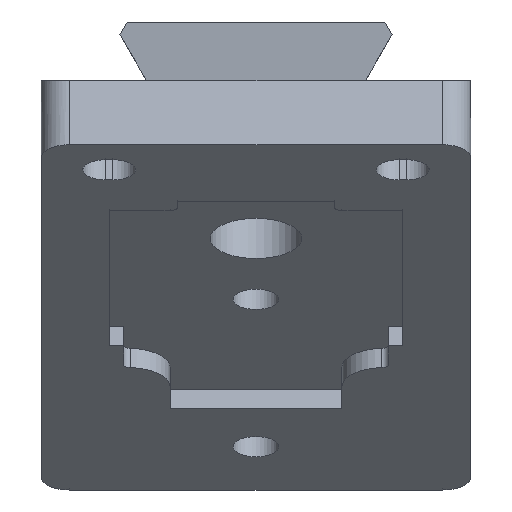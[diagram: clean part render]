
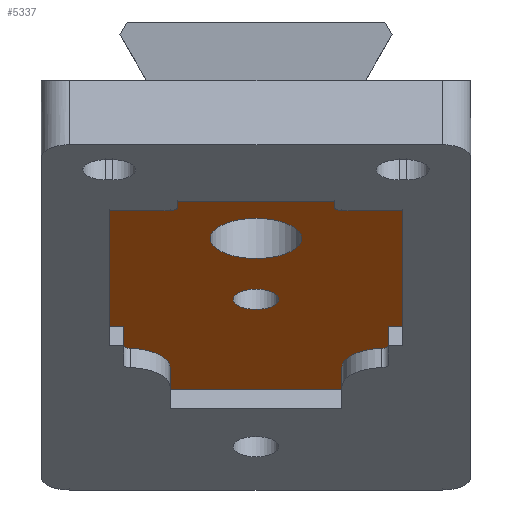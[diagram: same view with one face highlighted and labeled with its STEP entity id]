
A CAD part, left-side view. The second image highlights one B-rep face of the part: STEP entity #5337.
In plain terms, the highlighted planar face has unit normal (-0.438, 0, -0.899).
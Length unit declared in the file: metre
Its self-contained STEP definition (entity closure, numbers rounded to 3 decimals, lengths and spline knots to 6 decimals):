
#364=CIRCLE('',#5379,0.0016);
#366=CIRCLE('',#5382,0.0032);
#447=CIRCLE('',#5678,0.0005);
#448=CIRCLE('',#5679,0.003);
#449=CIRCLE('',#5680,0.003);
#450=CIRCLE('',#5681,0.0005);
#451=CIRCLE('',#5682,0.0005);
#452=CIRCLE('',#5683,0.0005);
#1947=ORIENTED_EDGE('',*,*,#2765,.T.);
#1948=ORIENTED_EDGE('',*,*,#2779,.T.);
#1949=ORIENTED_EDGE('',*,*,#2780,.T.);
#1950=ORIENTED_EDGE('',*,*,#2766,.T.);
#1951=ORIENTED_EDGE('',*,*,#2770,.T.);
#1952=ORIENTED_EDGE('',*,*,#2772,.F.);
#1953=ORIENTED_EDGE('',*,*,#2781,.T.);
#1954=ORIENTED_EDGE('',*,*,#2782,.T.);
#1955=ORIENTED_EDGE('',*,*,#2773,.F.);
#1956=ORIENTED_EDGE('',*,*,#2777,.F.);
#1957=ORIENTED_EDGE('',*,*,#2778,.T.);
#1958=ORIENTED_EDGE('',*,*,#2748,.F.);
#1959=ORIENTED_EDGE('',*,*,#2783,.T.);
#1960=ORIENTED_EDGE('',*,*,#2750,.T.);
#1961=ORIENTED_EDGE('',*,*,#2754,.T.);
#1962=ORIENTED_EDGE('',*,*,#2756,.F.);
#1963=ORIENTED_EDGE('',*,*,#2784,.T.);
#1964=ORIENTED_EDGE('',*,*,#2757,.F.);
#1965=ORIENTED_EDGE('',*,*,#2761,.F.);
#1966=ORIENTED_EDGE('',*,*,#2763,.F.);
#1967=ORIENTED_EDGE('',*,*,#2047,.F.);
#1968=ORIENTED_EDGE('',*,*,#2049,.F.);
#2047=EDGE_CURVE('',#2825,#2825,#364,.T.);
#2049=EDGE_CURVE('',#2827,#2827,#366,.T.);
#2748=EDGE_CURVE('',#3290,#3291,#3756,.T.);
#2750=EDGE_CURVE('',#3292,#3293,#3758,.T.);
#2754=EDGE_CURVE('',#3293,#3294,#3762,.T.);
#2756=EDGE_CURVE('',#3295,#3294,#3764,.T.);
#2757=EDGE_CURVE('',#3296,#3297,#3765,.T.);
#2761=EDGE_CURVE('',#3298,#3296,#3769,.T.);
#2763=EDGE_CURVE('',#3299,#3298,#3771,.T.);
#2765=EDGE_CURVE('',#3299,#3300,#3773,.T.);
#2766=EDGE_CURVE('',#3301,#3302,#3774,.T.);
#2770=EDGE_CURVE('',#3302,#3303,#3778,.T.);
#2772=EDGE_CURVE('',#3304,#3303,#3780,.T.);
#2773=EDGE_CURVE('',#3305,#3306,#3781,.T.);
#2777=EDGE_CURVE('',#3307,#3305,#3785,.T.);
#2778=EDGE_CURVE('',#3307,#3291,#3786,.T.);
#2779=EDGE_CURVE('',#3300,#3308,#447,.T.);
#2780=EDGE_CURVE('',#3308,#3301,#448,.F.);
#2781=EDGE_CURVE('',#3304,#3309,#449,.F.);
#2782=EDGE_CURVE('',#3309,#3306,#450,.T.);
#2783=EDGE_CURVE('',#3290,#3292,#451,.F.);
#2784=EDGE_CURVE('',#3295,#3297,#452,.F.);
#2825=VERTEX_POINT('',#6921);
#2827=VERTEX_POINT('',#6926);
#3290=VERTEX_POINT('',#9270);
#3291=VERTEX_POINT('',#9272);
#3292=VERTEX_POINT('',#9276);
#3293=VERTEX_POINT('',#9277);
#3294=VERTEX_POINT('',#9282);
#3295=VERTEX_POINT('',#9286);
#3296=VERTEX_POINT('',#9290);
#3297=VERTEX_POINT('',#9291);
#3298=VERTEX_POINT('',#9296);
#3299=VERTEX_POINT('',#9300);
#3300=VERTEX_POINT('',#9304);
#3301=VERTEX_POINT('',#9308);
#3302=VERTEX_POINT('',#9309);
#3303=VERTEX_POINT('',#9314);
#3304=VERTEX_POINT('',#9318);
#3305=VERTEX_POINT('',#9322);
#3306=VERTEX_POINT('',#9323);
#3307=VERTEX_POINT('',#9328);
#3308=VERTEX_POINT('',#9334);
#3309=VERTEX_POINT('',#9337);
#3756=LINE('',#9271,#4235);
#3758=LINE('',#9275,#4237);
#3762=LINE('',#9283,#4241);
#3764=LINE('',#9287,#4243);
#3765=LINE('',#9289,#4244);
#3769=LINE('',#9297,#4248);
#3771=LINE('',#9301,#4250);
#3773=LINE('',#9305,#4252);
#3774=LINE('',#9307,#4253);
#3778=LINE('',#9315,#4257);
#3780=LINE('',#9319,#4259);
#3781=LINE('',#9321,#4260);
#3785=LINE('',#9329,#4264);
#3786=LINE('',#9331,#4265);
#4235=VECTOR('',#6748,1.);
#4237=VECTOR('',#6752,1.);
#4241=VECTOR('',#6758,1.);
#4243=VECTOR('',#6762,1.);
#4244=VECTOR('',#6765,1.);
#4248=VECTOR('',#6771,1.);
#4250=VECTOR('',#6775,1.);
#4252=VECTOR('',#6779,1.);
#4253=VECTOR('',#6782,1.);
#4257=VECTOR('',#6788,1.);
#4259=VECTOR('',#6792,1.);
#4260=VECTOR('',#6795,1.);
#4264=VECTOR('',#6801,1.);
#4265=VECTOR('',#6804,1.);
#4580=EDGE_LOOP('',(#1947,#1948,#1949,#1950,#1951,#1952,#1953,#1954,#1955,
#1956,#1957,#1958,#1959,#1960,#1961,#1962,#1963,#1964,#1965,#1966));
#4581=EDGE_LOOP('',(#1967));
#4582=EDGE_LOOP('',(#1968));
#4905=FACE_BOUND('',#4580,.T.);
#4906=FACE_BOUND('',#4581,.T.);
#4907=FACE_BOUND('',#4582,.T.);
#5061=PLANE('',#5677);
#5337=ADVANCED_FACE('',(#4905,#4906,#4907),#5061,.T.);
#5379=AXIS2_PLACEMENT_3D('',#6920,#5754,#5755);
#5382=AXIS2_PLACEMENT_3D('',#6925,#5760,#5761);
#5677=AXIS2_PLACEMENT_3D('',#9332,#6805,#6806);
#5678=AXIS2_PLACEMENT_3D('',#9333,#6807,#6808);
#5679=AXIS2_PLACEMENT_3D('',#9335,#6809,#6810);
#5680=AXIS2_PLACEMENT_3D('',#9336,#6811,#6812);
#5681=AXIS2_PLACEMENT_3D('',#9338,#6813,#6814);
#5682=AXIS2_PLACEMENT_3D('',#9339,#6815,#6816);
#5683=AXIS2_PLACEMENT_3D('',#9340,#6817,#6818);
#5754=DIRECTION('',(-0.438,0.,-0.899));
#5755=DIRECTION('',(-0.899,0.,0.438));
#5760=DIRECTION('',(-0.438,0.,-0.899));
#5761=DIRECTION('',(-0.899,0.,0.438));
#6748=DIRECTION('',(0.,-1.,0.));
#6752=DIRECTION('',(-0.899,0.,0.438));
#6758=DIRECTION('',(0.,1.,0.));
#6762=DIRECTION('',(-0.899,0.,0.438));
#6765=DIRECTION('',(0.,-1.,0.));
#6771=DIRECTION('',(-0.899,0.,0.438));
#6775=DIRECTION('',(0.,1.,0.));
#6779=DIRECTION('',(0.899,0.,-0.438));
#6782=DIRECTION('',(0.899,0.,-0.438));
#6788=DIRECTION('',(0.,-1.,0.));
#6792=DIRECTION('',(0.899,0.,-0.438));
#6795=DIRECTION('',(0.899,0.,-0.438));
#6801=DIRECTION('',(0.,1.,0.));
#6804=DIRECTION('',(-0.899,0.,0.438));
#6805=DIRECTION('',(-0.438,0.,-0.899));
#6806=DIRECTION('',(0.899,0.,-0.438));
#6807=DIRECTION('',(-0.438,0.,-0.899));
#6808=DIRECTION('',(-0.899,0.,0.438));
#6809=DIRECTION('',(-0.438,0.,-0.899));
#6810=DIRECTION('',(-0.899,0.,0.438));
#6811=DIRECTION('',(-0.438,0.,-0.899));
#6812=DIRECTION('',(-0.899,0.,0.438));
#6813=DIRECTION('',(-0.438,0.,-0.899));
#6814=DIRECTION('',(-0.899,0.,0.438));
#6815=DIRECTION('',(-0.438,0.,-0.899));
#6816=DIRECTION('',(-0.899,0.,0.438));
#6817=DIRECTION('',(-0.438,0.,-0.899));
#6818=DIRECTION('',(-0.899,0.,0.438));
#6920=CARTESIAN_POINT('',(0.023373,0.,-0.015266));
#6921=CARTESIAN_POINT('',(0.021935,0.,-0.014565));
#6925=CARTESIAN_POINT('',(0.014655,0.,-0.011014));
#6926=CARTESIAN_POINT('',(0.011779,0.,-0.009611));
#9270=CARTESIAN_POINT('',(0.007914,-0.006,-0.007726));
#9271=CARTESIAN_POINT('',(0.007914,-0.007875,-0.007726));
#9272=CARTESIAN_POINT('',(0.007914,-0.01025,-0.007726));
#9275=CARTESIAN_POINT('',(0.007285,-0.0055,-0.007419));
#9276=CARTESIAN_POINT('',(0.007465,-0.0055,-0.007507));
#9277=CARTESIAN_POINT('',(0.006656,-0.0055,-0.007112));
#9282=CARTESIAN_POINT('',(0.006656,0.0055,-0.007112));
#9283=CARTESIAN_POINT('',(0.006656,0.,-0.007112));
#9286=CARTESIAN_POINT('',(0.007465,0.0055,-0.007507));
#9287=CARTESIAN_POINT('',(0.007285,0.0055,-0.007419));
#9289=CARTESIAN_POINT('',(0.007914,0.007875,-0.007726));
#9290=CARTESIAN_POINT('',(0.007914,0.01025,-0.007726));
#9291=CARTESIAN_POINT('',(0.007914,0.006,-0.007726));
#9296=CARTESIAN_POINT('',(0.027238,0.01025,-0.017151));
#9297=CARTESIAN_POINT('',(0.017576,0.01025,-0.012438));
#9300=CARTESIAN_POINT('',(0.027238,0.00925,-0.017151));
#9301=CARTESIAN_POINT('',(0.027238,0.00975,-0.017151));
#9304=CARTESIAN_POINT('',(0.029943,0.00925,-0.01847));
#9305=CARTESIAN_POINT('',(0.028811,0.00925,-0.017918));
#9307=CARTESIAN_POINT('',(0.033305,0.006,-0.02011));
#9308=CARTESIAN_POINT('',(0.03308,0.006,-0.02));
#9309=CARTESIAN_POINT('',(0.036226,0.006,-0.021535));
#9314=CARTESIAN_POINT('',(0.036226,-0.006,-0.021535));
#9315=CARTESIAN_POINT('',(0.036226,0.,-0.021535));
#9318=CARTESIAN_POINT('',(0.03308,-0.006,-0.02));
#9319=CARTESIAN_POINT('',(0.033305,-0.006,-0.02011));
#9321=CARTESIAN_POINT('',(0.028811,-0.00925,-0.017918));
#9322=CARTESIAN_POINT('',(0.027238,-0.00925,-0.017151));
#9323=CARTESIAN_POINT('',(0.029943,-0.00925,-0.01847));
#9328=CARTESIAN_POINT('',(0.027238,-0.01025,-0.017151));
#9329=CARTESIAN_POINT('',(0.027238,-0.00975,-0.017151));
#9331=CARTESIAN_POINT('',(0.020947,-0.01025,-0.014082));
#9332=CARTESIAN_POINT('',(0.023194,0.,-0.015178));
#9333=CARTESIAN_POINT('',(0.029943,0.00875,-0.01847));
#9334=CARTESIAN_POINT('',(0.030391,0.008786,-0.018689));
#9335=CARTESIAN_POINT('',(0.03308,0.009,-0.02));
#9336=CARTESIAN_POINT('',(0.03308,-0.009,-0.02));
#9337=CARTESIAN_POINT('',(0.030391,-0.008786,-0.018689));
#9338=CARTESIAN_POINT('',(0.029943,-0.00875,-0.01847));
#9339=CARTESIAN_POINT('',(0.007465,-0.006,-0.007507));
#9340=CARTESIAN_POINT('',(0.007465,0.006,-0.007507));
